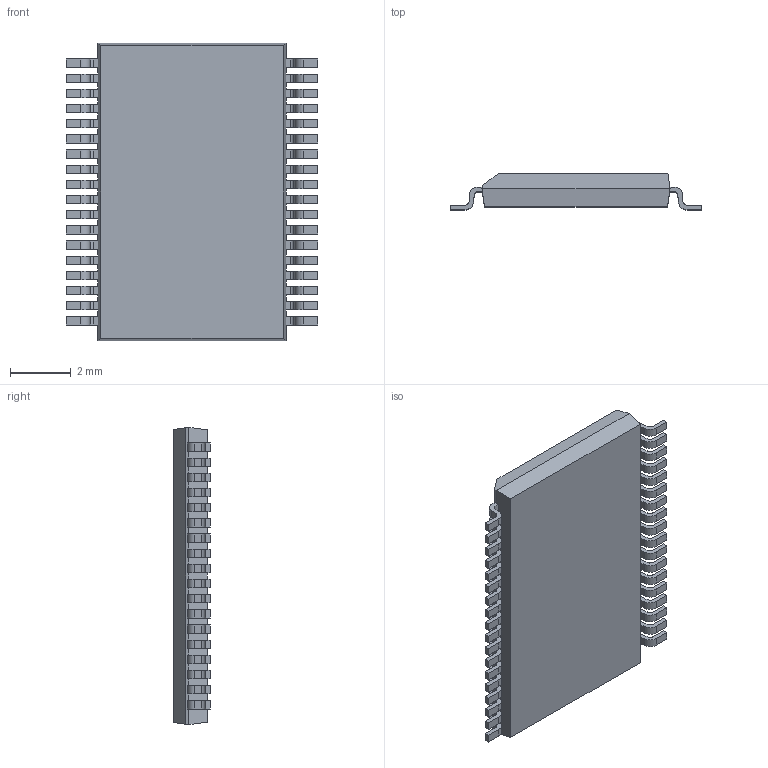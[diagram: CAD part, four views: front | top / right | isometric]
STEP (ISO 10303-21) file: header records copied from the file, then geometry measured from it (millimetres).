
FILE_DESCRIPTION (( 'STEP AP214' ), '1' );
FILE_NAME ('TSSOP50P810X120-36_MO-153.EB.STEP', '2014-10-29T08:31:59', ( 'Tester2' ), ( '' ), 'SwSTEP 2.0', 'SolidWorks 2012', '' );
FILE_SCHEMA (( 'AUTOMOTIVE_DESIGN' ));
Length unit declared in the file: millimetre
Products named in the file (1): TSSOP50P810X120-36_MO-153.EB
Bounding box: 8.3 x 1.2 x 9.8 mm (x, y, z)
Volume: 66.7 mm3; surface area: 194.1 mm2
Topology: 1 solids, 1 shells, 482 faces, 1433 edges, 954 vertices
Faces by surface type: plane 336, cylinder 146
Entity records: 21312 total; most frequent: CARTESIAN_POINT 2870, ORIENTED_EDGE 2866, DIRECTION 2691, EDGE_CURVE 1433, VECTOR 1141, LINE 1141, VERTEX_POINT 954, AXIS2_PLACEMENT_3D 775
